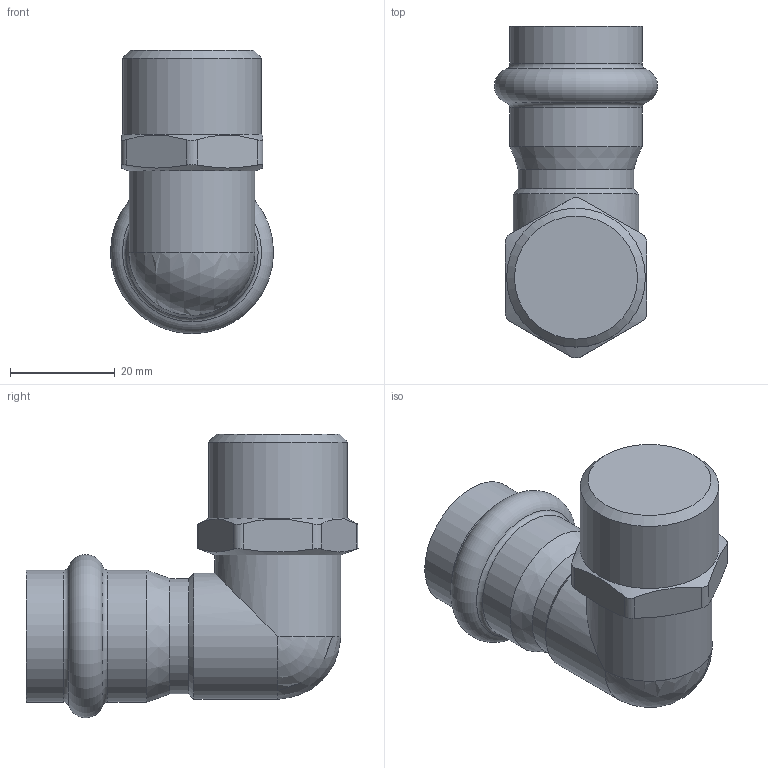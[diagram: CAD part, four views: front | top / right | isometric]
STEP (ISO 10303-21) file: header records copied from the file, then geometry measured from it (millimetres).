
FILE_DESCRIPTION(('STEP AP203'), '1');
FILE_NAME('VTi.953.I.002205', '', ('UNSPECIFIED'), ('UNSPECIFIED'), 'C3D Converter', 'C3D Toolkit', '');
FILE_SCHEMA(('CONFIG_CONTROL_DESIGN'));
Length unit declared in the file: millimetre
Bounding box: 31.08 x 63.28 x 54.04 mm (x, y, z)
Volume: 43276 mm3; surface area: 8194 mm2
Topology: 1 solids, 1 shells, 29 faces, 71 edges, 42 vertices
Faces by surface type: cylinder 12, plane 8, cone 5, torus 3, sphere 1
Full cylindrical faces by diameter (mm): 22 x1, 24 x2, 25.2 x2, 26.441 x1
Entity records: 1681 total; most frequent: CARTESIAN_POINT 1070, ORIENTED_EDGE 110, DIRECTION 104, EDGE_CURVE 55, AXIS2_PLACEMENT_3D 46, EDGE_LOOP 43, VERTEX_POINT 42, ADVANCED_FACE 29
